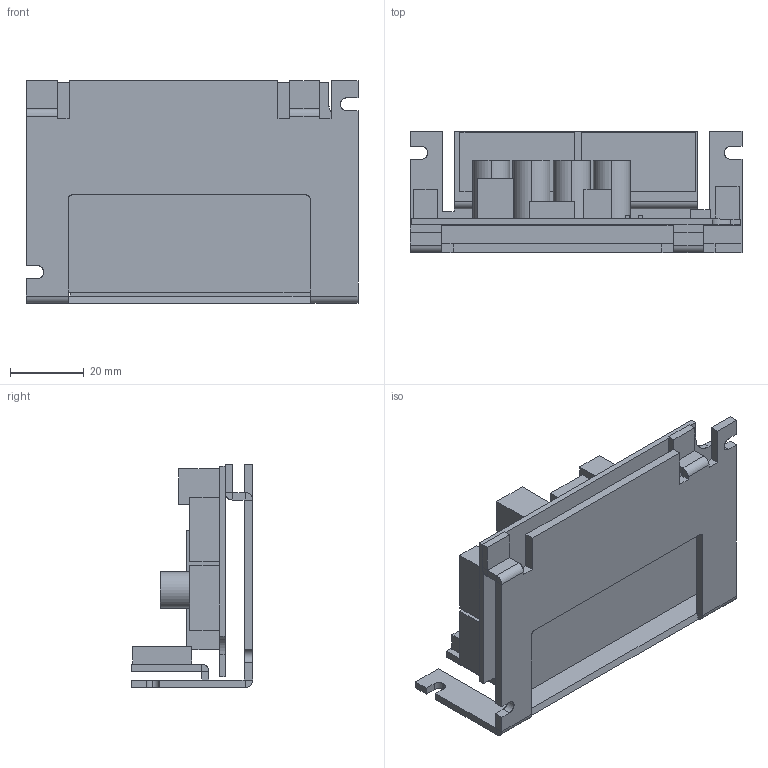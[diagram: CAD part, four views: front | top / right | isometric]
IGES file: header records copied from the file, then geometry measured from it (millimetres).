
Start section: SolidWorks IGES file using analytic representation for surfaces
Global section: file name: C:\Users\7666\Documents\Desktop\PDSA-UD.IGS; native system: SolidWorks 2014; preprocessor: SolidWorks 2014; author: 7666; date: 180226.101008; units: millimetre
Bounding box: 90 x 33 x 60.4 mm (x, y, z)
Surface area: 31564.9 mm2 (no closed solid volume)
Topology: 0 solids, 0 shells, 180 faces, 1418 edges, 1418 vertices
Faces by surface type: bspline 156, revolution 24
